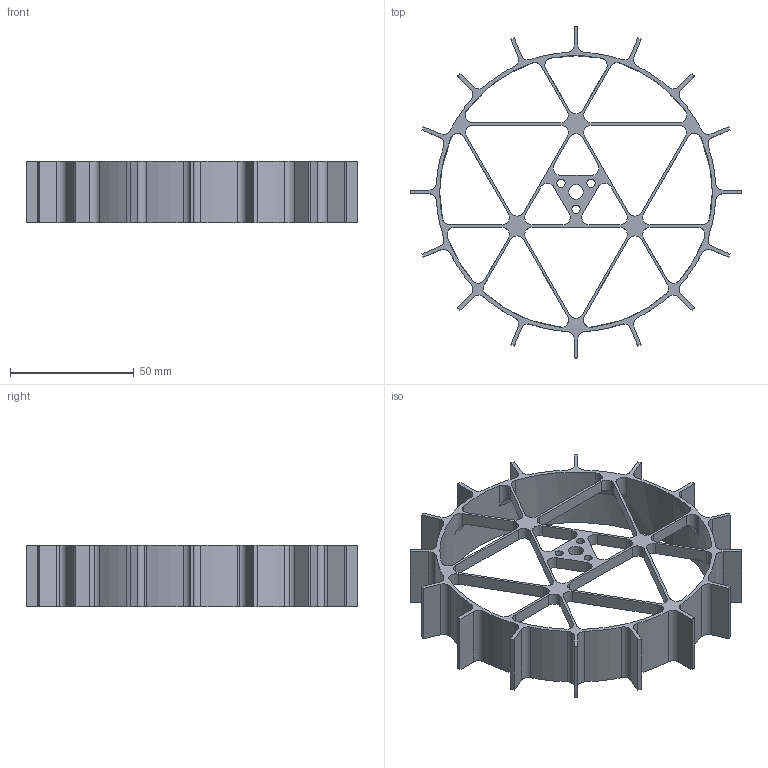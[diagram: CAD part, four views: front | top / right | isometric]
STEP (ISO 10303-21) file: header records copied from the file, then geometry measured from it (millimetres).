
FILE_DESCRIPTION (( 'STEP AP214' ), '1' );
FILE_NAME ('Uus_ratas.STEP', '2025-05-19T11:55:55', ( '' ), ( '' ), 'SwSTEP 2.0', 'SolidWorks 2024', '' );
FILE_SCHEMA (( 'AUTOMOTIVE_DESIGN' ));
Length unit declared in the file: millimetre
Products named in the file (1): Uus_ratas
Bounding box: 134 x 134 x 25 mm (x, y, z)
Volume: 26156.4 mm3; surface area: 34239.4 mm2
Topology: 1 solids, 1 shells, 226 faces, 699 edges, 464 vertices
Faces by surface type: cylinder 140, plane 71, torus 12, bspline 3
Entity records: 8533 total; most frequent: CARTESIAN_POINT 2007, DIRECTION 1405, ORIENTED_EDGE 1398, EDGE_CURVE 699, AXIS2_PLACEMENT_3D 526, VERTEX_POINT 464, LINE 353, VECTOR 353
